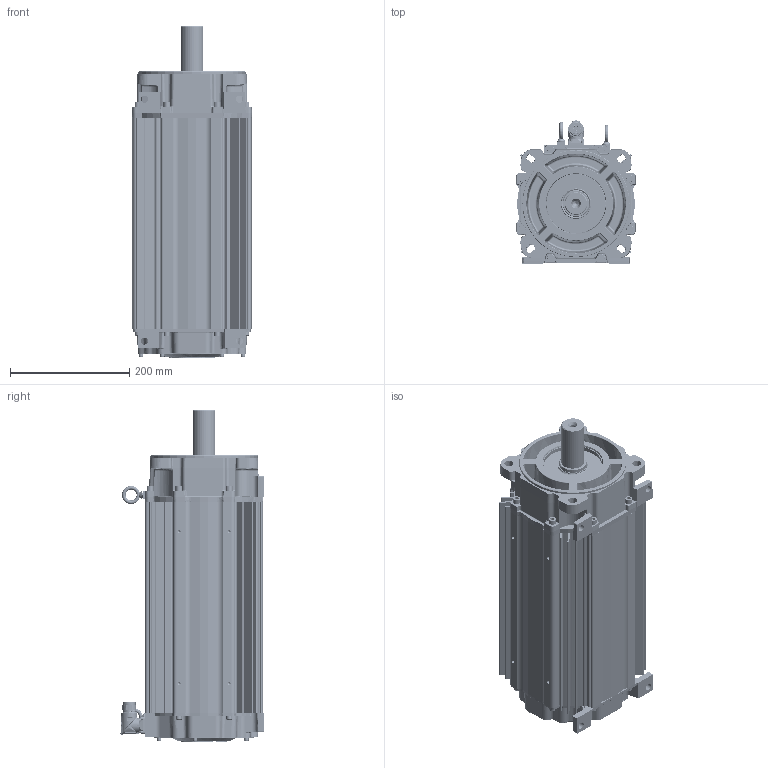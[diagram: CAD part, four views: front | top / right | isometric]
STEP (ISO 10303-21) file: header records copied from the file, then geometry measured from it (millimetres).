
FILE_DESCRIPTION((''),'2;1');
FILE_NAME('10001410891-Q_ASM','2020-01-15T14:09:01',('VThimma'),('Rockwell Automation'),'CREO PARAMETRIC BY PTC INC, 2017380','CREO PARAMETRIC BY PTC INC, 2017380','');
FILE_SCHEMA(('CONFIG_CONTROL_DESIGN','SHAPE_APPEARANCE_LAYERS_GROUPS'));
Products named in the file (25): 10001371613; 10001238886_AF0; 10001298482_AF22; 10001284445_ASM; CH31X150; 10001406659_ASM; 10001336772_KEYLESS; 10001398824_ASM; 10001257630_AF308; 10001300098_AF280; 10001314840_ASM; 10001586886; 10000172464; 0002-5005; 10000014325-2; 10000014325-1; 10000014326-1; 10000014326-M23_ASM; 10000014328-M23; 10000014325-M23_ASM; 10000569218; 10001290343; 221404-Q12; 10001609981; 10001410891-Q_ASM
Assembly tree (51 placements, depth 4):
  10001410891-Q_ASM
    10001406659_ASM
      10001371613
      10001284445_ASM
        10001238886_AF0
        10001298482_AF22
      CH31X150  x8
    10001398824_ASM
      10001336772_KEYLESS
    10001314840_ASM
      10001257630_AF308
      10001300098_AF280
    10001586886  x8
    10000172464  x5
    0002-5005  x2
    10000014325-M23_ASM
      10000014325-2
      10000014325-1
      10000014326-M23_ASM
        10000014326-1
      10000014328-M23  x4
    10000569218
    10001290343
    221404-Q12  x6
    10001609981
Bounding box: 200.45 x 240.54 x 557.79 mm (x, y, z)
Surface area: 1308403.6 mm2 (no closed solid volume)
Topology: 0 solids, 60 shells, 5718 faces, 14608 edges, 9018 vertices
Faces by surface type: cylinder 1841, plane 1427, bspline 1178, cone 587, torus 586, sphere 95, extrusion 3, revolution 1
Entity records: 289770 total; most frequent: CARTESIAN_POINT 112465, ORIENTED_EDGE 23606, DIRECTION 19666, PRESENTATION_STYLE_ASSIGNMENT 16369, STYLED_ITEM 16369, CURVE_STYLE 11813, EDGE_CURVE 11809, AXIS2_PLACEMENT_3D 7854
